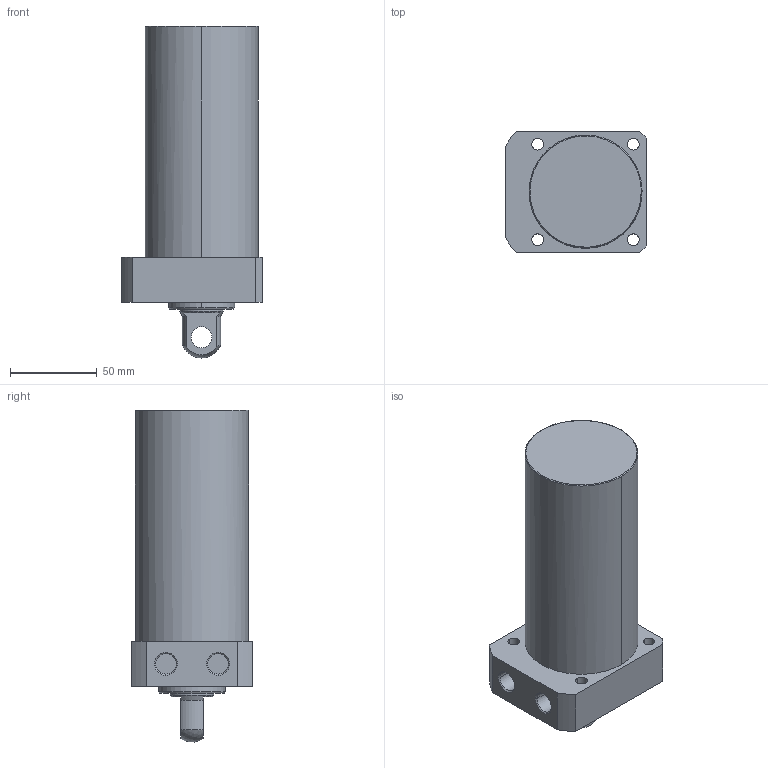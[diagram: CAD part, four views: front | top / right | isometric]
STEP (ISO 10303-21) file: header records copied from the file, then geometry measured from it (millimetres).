
FILE_DESCRIPTION((' '),'2;1');
FILE_NAME( 'TLLR-065CP-100.STEP.stp', '2025-10-24T16:35:03', (' '), ('--- Datakit www.datakit.com---'), ' Datakit CrossCadWare V2024.1 Dec 21 2023', 'Mastercam 2025', ' ');
FILE_SCHEMA(('AUTOMOTIVE_DESIGN { 1 0 10303 214 1 1 1 1 }'));
Length unit declared in the file: millimetre
Products named in the file (1): TLLR-065CP-100
Bounding box: 81 x 70 x 190.92 mm (x, y, z)
Volume: 588965.6 mm3; surface area: 51523.1 mm2
Topology: 1 solids, 1 shells, 57 faces, 164 edges, 116 vertices
Faces by surface type: cylinder 28, plane 18, cone 8, torus 2, sphere 1
Entity records: 2006 total; most frequent: DIRECTION 378, CARTESIAN_POINT 350, ORIENTED_EDGE 328, EDGE_CURVE 164, AXIS2_PLACEMENT_3D 160, VERTEX_POINT 116, CIRCLE 102, EDGE_LOOP 74
